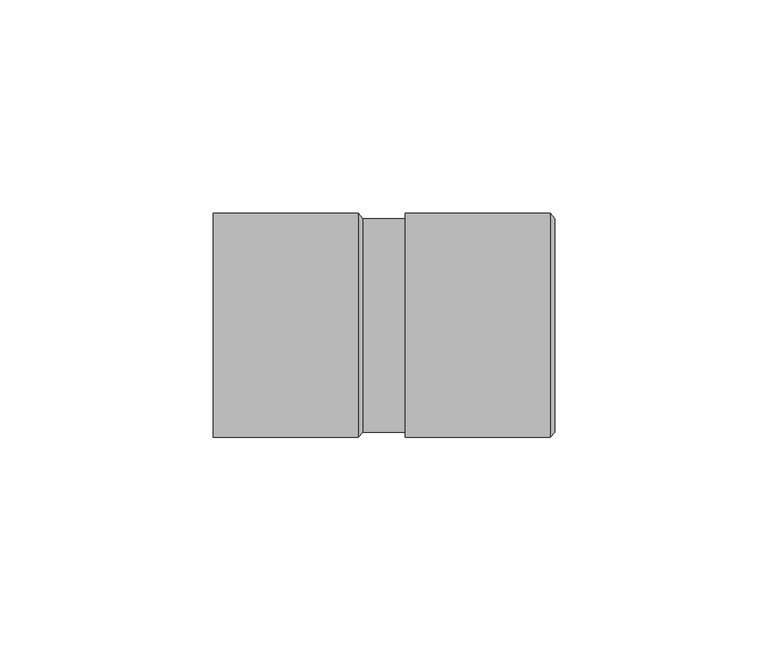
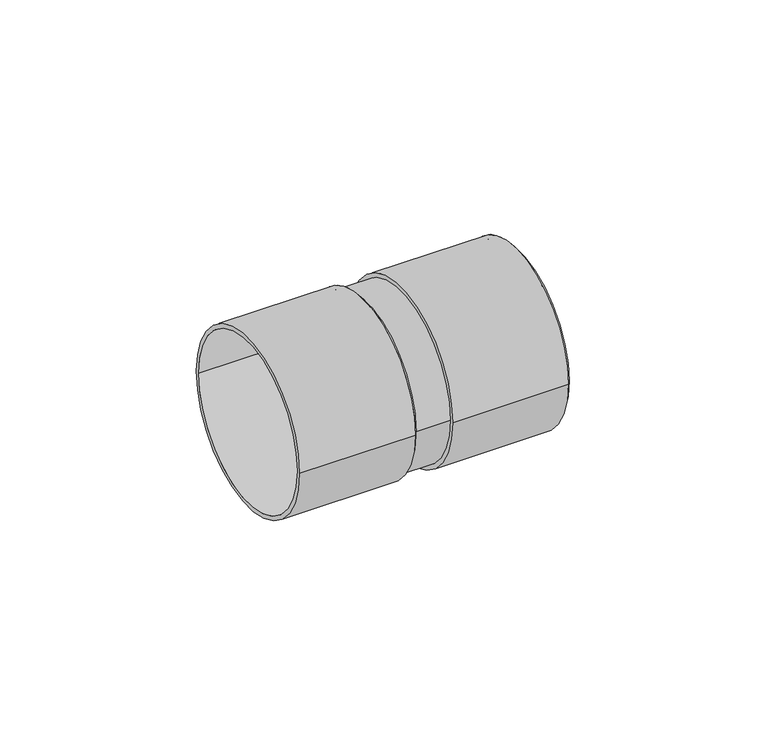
"""IFC4 building model written with IfcOpenShell, lengths in millimetres: pipe fitting geometry, Superdrain HTS-Connection piece to iron pipes : Superdrain HTS-Connection piece to iron pipes."""

from ifc_helpers import new_model, si_unit, point, frame, origin, origin_2d, place, context, project, spatial, polyline, circle_curve, trimmed, segment, composite_curve, outline, extrude, source, transform, mapped, element, save
from ifc_brep_helpers import plane_surface, revolved_surface, advanced_brep


def pipe_fitting_70d78208(model_context):
    return source(origin(), model_context, "Body", "SolidModel", [
        extrude(outline(composite_curve([segment(trimmed(circle_curve(origin_2d(), 26.25), [point((-26.25, 0.0))], [point((26.25, 0.0))], False, "CARTESIAN"), True, "CONTINUOUS"), segment(trimmed(circle_curve(origin_2d(), 26.25), [point((26.25, 0.0))], [point((-26.25, 0.0))], False, "CARTESIAN"), True, "CONTINUOUS")], self_intersect=False), holes=[composite_curve([segment(trimmed(circle_curve(origin_2d(), 25.0), [point((-25.0, 0.0))], [point((25.0, 0.0))], True, "CARTESIAN"), True, "CONTINUOUS"), segment(trimmed(circle_curve(origin_2d(), 25.0), [point((25.0, 0.0))], [point((-25.0, 0.0))], True, "CARTESIAN"), True, "CONTINUOUS")], self_intersect=False)]), frame((11.0, 0.0, 0.0), z_axis=(1.0, 0.0, 0.0), x_axis=(0.0, 1.0, 0.0)), (0.0, 0.0, 1.0), 34.0),
        advanced_brep(
        [(46.0, -25.0, 0.0), (46.0, 25.0, 0.0), (45.0, -26.25, 0.0), (45.0, 26.25, 0.0)],
        [
            (0, 1, circle_curve(frame((46.0, 0.0, 0.0), z_axis=(1.0, 0.0, 0.0), x_axis=(0.0, -1.0, 0.0)), 25.0)),
            (1, 0, circle_curve(frame((46.0, 0.0, 0.0), z_axis=(1.0, 0.0, 0.0), x_axis=(0.0, 1.0, 0.0)), 25.0)),
            (2, 3, circle_curve(frame((45.0, 0.0, 0.0), z_axis=(-1.0, 0.0, 0.0), x_axis=(0.0, 1.0, 0.0)), 26.25)),
            (3, 2, circle_curve(frame((45.0, 0.0, 0.0), z_axis=(-1.0, 0.0, 0.0), x_axis=(0.0, -1.0, 0.0)), 26.25)),
            (3, 1),
            (0, 2),
        ],
        [
            plane_surface(frame((46.0, 0.0, 0.0), z_axis=(1.0, 0.0, 0.0), x_axis=(0.0, 0.0, -1.0))),
            plane_surface(frame((45.0, 0.0, 0.0), z_axis=(-1.0, 0.0, 0.0), x_axis=(0.0, 0.0, -1.0))),
            revolved_surface(polyline([(46.0, -25.0, 0.0), (45.0, -26.25, 0.0)]), (66.0, 0.0, 0.0), (-1.0, 0.0, 0.0)),
            revolved_surface(polyline([(46.0, 25.0, 0.0), (45.0, 26.25, 0.0)]), (66.0, 0.0, 0.0), (-1.0, 0.0, 0.0)),
        ],
        [
            (0, [[1, 2]]),
            (1, [[3, 4]]),
            (2, [[-4, 5, -1, 6]]),
            (3, [[-3, -6, -2, -5]]),
        ],
    ),
        extrude(outline(composite_curve([segment(trimmed(circle_curve(origin_2d(), 26.25), [point((-26.25, 0.0))], [point((26.25, 0.0))], False, "CARTESIAN"), True, "CONTINUOUS"), segment(trimmed(circle_curve(origin_2d(), 26.25), [point((26.25, 0.0))], [point((-26.25, 0.0))], False, "CARTESIAN"), True, "CONTINUOUS")], self_intersect=False), holes=[composite_curve([segment(trimmed(circle_curve(origin_2d(), 25.0), [point((-25.0, 0.0))], [point((25.0, 0.0))], True, "CARTESIAN"), True, "CONTINUOUS"), segment(trimmed(circle_curve(origin_2d(), 25.0), [point((25.0, 0.0))], [point((-25.0, 0.0))], True, "CARTESIAN"), True, "CONTINUOUS")], self_intersect=False)]), frame((-34.0, 0.0, 0.0), z_axis=(1.0, 0.0, 0.0), x_axis=(0.0, 1.0, 0.0)), (0.0, 0.0, 1.0), 34.0),
        advanced_brep(
        [(1.0, -25.0, 0.0), (1.0, 25.0, 0.0), (0.0, -26.25, 0.0), (0.0, 26.25, 0.0)],
        [
            (0, 1, circle_curve(frame((1.0, 0.0, 0.0), z_axis=(1.0, 0.0, 0.0), x_axis=(0.0, -1.0, 0.0)), 25.0)),
            (1, 0, circle_curve(frame((1.0, 0.0, 0.0), z_axis=(1.0, 0.0, 0.0), x_axis=(0.0, 1.0, 0.0)), 25.0)),
            (2, 3, circle_curve(frame((0.0, 0.0, 0.0), z_axis=(-1.0, 0.0, 0.0), x_axis=(0.0, 1.0, 0.0)), 26.25)),
            (3, 2, circle_curve(frame((0.0, 0.0, 0.0), z_axis=(-1.0, 0.0, 0.0), x_axis=(0.0, -1.0, 0.0)), 26.25)),
            (3, 1),
            (0, 2),
        ],
        [
            plane_surface(frame((1.0, 0.0, 0.0), z_axis=(1.0, 0.0, 0.0), x_axis=(0.0, 0.0, -1.0))),
            plane_surface(frame((0.0, 0.0, 0.0), z_axis=(-1.0, 0.0, 0.0), x_axis=(0.0, 0.0, -1.0))),
            revolved_surface(polyline([(1.0, -25.0, 0.0), (0.0, -26.25, 0.0)]), (21.0, 0.0, 0.0), (-1.0, 0.0, 0.0)),
            revolved_surface(polyline([(1.0, 25.0, 0.0), (0.0, 26.25, 0.0)]), (21.0, 0.0, 0.0), (-1.0, 0.0, 0.0)),
        ],
        [
            (0, [[1, 2]]),
            (1, [[3, 4]]),
            (2, [[-4, 5, -1, 6]]),
            (3, [[-3, -6, -2, -5]]),
        ],
    ),
        extrude(outline(composite_curve([segment(trimmed(circle_curve(origin_2d(), 25.0), [point((-25.0, 0.0))], [point((25.0, 0.0))], False, "CARTESIAN"), True, "CONTINUOUS"), segment(trimmed(circle_curve(origin_2d(), 25.0), [point((25.0, 0.0))], [point((-25.0, 0.0))], False, "CARTESIAN"), True, "CONTINUOUS")], self_intersect=False)), frame((0.0, 0.0, 0.0), z_axis=(1.0, 0.0, 0.0), x_axis=(0.0, 1.0, 0.0)), (0.0, 0.0, 1.0), 45.0),
    ])


if __name__ == "__main__":
    model = new_model("IFC4")
    model_context = context("Model", 3, world=origin())
    ifc_project = project(units=[si_unit("LENGTHUNIT", "METRE", prefix="MILLI")], contexts=[model_context])
    site = spatial("IfcSite", under=ifc_project)
    building = spatial("IfcBuilding", under=site)
    placement = place(None, origin())
    pipe_fitting_shape = pipe_fitting_70d78208(model_context)
    element("IfcPipeFitting", 1, ObjectType="Superdrain HTS-Connection piece to iron pipes : Superdrain HTS-Connection piece to iron pipes", at=placement, inside=building, context=model_context, shape_type="MappedRepresentation", body=[
        mapped(pipe_fitting_shape, transform((0.0, 0.0, 0.0), x_axis=(1.0, 0.0, 0.0), y_axis=(0.0, 1.0, 0.0), z_axis=(0.0, 0.0, 1.0))),
    ])
    save(model, "model.ifc")
